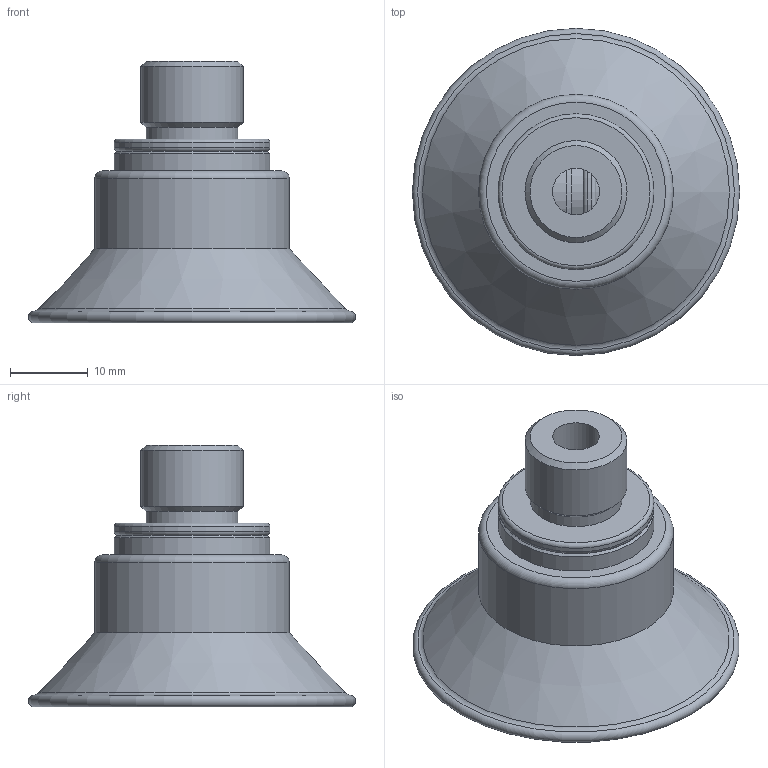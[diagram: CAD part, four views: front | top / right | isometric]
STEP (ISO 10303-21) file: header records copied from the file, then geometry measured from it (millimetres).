
FILE_DESCRIPTION( ( 'Unknown' ), '1' );
FILE_NAME( 'D:/弥龋覆(冠固急)/Smart Cup/寇何侩-唱荤魂TYPE/FCF40-14M.stp', 'Unknown', ( 'Unknown' ), ( 'Unknown' ), 'PSStep 10.0', 'Unknown', ' ' );
FILE_SCHEMA( ( 'AUTOMOTIVE_DESIGN { 1 0 10303 214 1 1 1 1 }' ) );
Length unit declared in the file: millimetre
Products named in the file (4): Assem1; FCF40; FCF40-18F; C1814D
Bounding box: 42 x 42 x 33.6 mm (x, y, z)
Volume: 21506 mm3; surface area: 22278.1 mm2
Topology: 6 solids, 6 shells, 154 faces, 262 edges, 156 vertices
Faces by surface type: cylinder 56, plane 48, cone 36, torus 14
Full cylindrical faces by diameter (mm): 6 x2, 6.928 x2, 7.5 x2, 8.566 x2, 8.8 x2, 9 x2, 9.8 x2, 10 x2, 11 x2, 11.8 x2, 13.1 x2, 13.8 x12, 20 x4, 21.8 x12, 25 x4, 29 x2
Entity records: 2241 total; most frequent: DIRECTION 316, CARTESIAN_POINT 235, AXIS2_PLACEMENT_3D 158, EDGE_LOOP 154, ORIENTED_EDGE 154, FACE_OUTER_BOUND 112, STYLED_ITEM 77, PRESENTATION_STYLE_ASSIGNMENT 77
